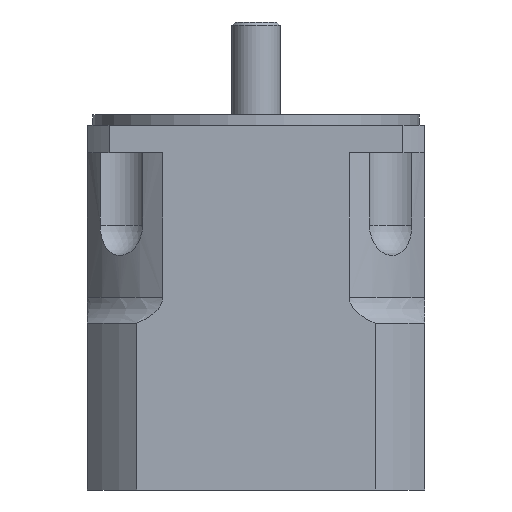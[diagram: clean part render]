
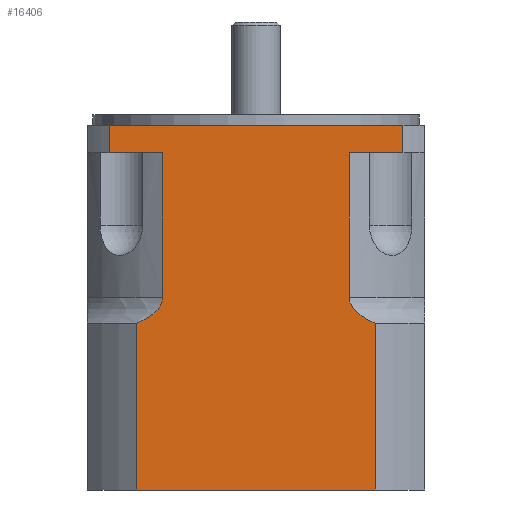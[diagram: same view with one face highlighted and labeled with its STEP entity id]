
A CAD part, front view. The second image highlights one B-rep face of the part: STEP entity #16406.
In plain terms, the highlighted planar face has unit normal (0, -1, 0).
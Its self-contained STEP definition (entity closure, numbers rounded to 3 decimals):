
#454=B_SPLINE_CURVE_WITH_KNOTS('',3,(#24687,#24688,#24689,#24690,#24691,
#24692,#24693,#24694,#24695,#24696,#24697,#24698,#24699,#24700),
 .UNSPECIFIED.,.F.,.F.,(4,2,2,2,2,2,4),(3.462,3.588,
3.731,3.935,4.138,4.416,4.515),
 .UNSPECIFIED.);
#457=B_SPLINE_CURVE_WITH_KNOTS('',3,(#24751,#24752,#24753,#24754,#24755,
#24756,#24757,#24758,#24759,#24760,#24761,#24762,#24763,#24764),
 .UNSPECIFIED.,.F.,.F.,(4,2,2,2,2,2,4),(2.409,2.508,
2.786,2.99,3.193,3.337,3.462),
 .UNSPECIFIED.);
#803=LINE('',#24382,#1627);
#806=LINE('',#24395,#1630);
#818=LINE('',#24467,#1642);
#834=LINE('',#24529,#1658);
#850=LINE('',#24567,#1674);
#860=LINE('',#24743,#1684);
#862=LINE('',#24767,#1686);
#863=LINE('',#24770,#1687);
#866=LINE('',#24783,#1690);
#867=LINE('',#24785,#1691);
#1627=VECTOR('',#19496,8.);
#1630=VECTOR('',#19507,8.);
#1642=VECTOR('',#19547,15.597);
#1658=VECTOR('',#19567,15.597);
#1674=VECTOR('',#19599,85.417);
#1684=VECTOR('',#19653,42.);
#1686=VECTOR('',#19667,42.);
#1687=VECTOR('',#19670,48.517);
#1690=VECTOR('',#19687,48.517);
#1691=VECTOR('',#19690,69.253);
#3103=FACE_OUTER_BOUND('',#4132,.T.);
#4132=EDGE_LOOP('',(#10554,#10555,#10556,#10557,#10558,#10559,#10560,#10561,
#10562,#10563,#10564,#10565));
#6389=VERTEX_POINT('',#24380);
#6390=VERTEX_POINT('',#24381);
#6395=VERTEX_POINT('',#24392);
#6396=VERTEX_POINT('',#24394);
#6414=VERTEX_POINT('',#24465);
#6430=VERTEX_POINT('',#24528);
#6453=VERTEX_POINT('',#24685);
#6454=VERTEX_POINT('',#24686);
#6459=VERTEX_POINT('',#24748);
#6460=VERTEX_POINT('',#24750);
#6461=VERTEX_POINT('',#24769);
#6464=VERTEX_POINT('',#24781);
#7964=EDGE_CURVE('',#6389,#6390,#803,.T.);
#7970=EDGE_CURVE('',#6396,#6395,#806,.T.);
#7994=EDGE_CURVE('',#6414,#6390,#818,.T.);
#8012=EDGE_CURVE('',#6396,#6430,#834,.T.);
#8031=EDGE_CURVE('',#6395,#6389,#850,.T.);
#8048=EDGE_CURVE('',#6453,#6454,#454,.T.);
#8058=EDGE_CURVE('',#6414,#6453,#860,.T.);
#8061=EDGE_CURVE('',#6460,#6459,#457,.T.);
#8063=EDGE_CURVE('',#6459,#6430,#862,.T.);
#8064=EDGE_CURVE('',#6460,#6461,#863,.T.);
#8071=EDGE_CURVE('',#6464,#6454,#866,.T.);
#8072=EDGE_CURVE('',#6461,#6464,#867,.T.);
#10554=ORIENTED_EDGE('',*,*,#7964,.T.);
#10555=ORIENTED_EDGE('',*,*,#7994,.F.);
#10556=ORIENTED_EDGE('',*,*,#8058,.T.);
#10557=ORIENTED_EDGE('',*,*,#8048,.T.);
#10558=ORIENTED_EDGE('',*,*,#8071,.F.);
#10559=ORIENTED_EDGE('',*,*,#8072,.F.);
#10560=ORIENTED_EDGE('',*,*,#8064,.F.);
#10561=ORIENTED_EDGE('',*,*,#8061,.T.);
#10562=ORIENTED_EDGE('',*,*,#8063,.T.);
#10563=ORIENTED_EDGE('',*,*,#8012,.F.);
#10564=ORIENTED_EDGE('',*,*,#7970,.T.);
#10565=ORIENTED_EDGE('',*,*,#8031,.T.);
#15127=PLANE('',#17469);
#16406=ADVANCED_FACE('',(#3103),#15127,.T.);
#17469=AXIS2_PLACEMENT_3D('',#24784,#19688,#19689);
#19496=DIRECTION('',(0.,0.,-1.));
#19507=DIRECTION('',(0.,0.,1.));
#19547=DIRECTION('',(-1.,0.,0.));
#19567=DIRECTION('',(-1.,0.,0.));
#19599=DIRECTION('',(-1.,0.,0.));
#19653=DIRECTION('',(0.,0.,-1.));
#19667=DIRECTION('',(0.,0.,1.));
#19670=DIRECTION('',(0.,0.,-1.));
#19687=DIRECTION('',(0.,0.,1.));
#19688=DIRECTION('center_axis',(0.,-1.,0.));
#19689=DIRECTION('ref_axis',(0.,0.,-1.));
#19690=DIRECTION('',(-1.,0.,0.));
#24380=CARTESIAN_POINT('',(-42.708,-49.,106.));
#24381=CARTESIAN_POINT('',(-42.708,-49.,98.));
#24382=CARTESIAN_POINT('',(-42.708,-49.,106.));
#24392=CARTESIAN_POINT('',(42.708,-49.,106.));
#24394=CARTESIAN_POINT('',(42.708,-49.,98.));
#24395=CARTESIAN_POINT('',(42.708,-49.,106.));
#24465=CARTESIAN_POINT('',(-27.111,-49.,98.));
#24467=CARTESIAN_POINT('',(49.,-49.,98.));
#24528=CARTESIAN_POINT('',(27.111,-49.,98.));
#24529=CARTESIAN_POINT('',(49.,-49.,98.));
#24567=CARTESIAN_POINT('',(49.,-49.,106.));
#24685=CARTESIAN_POINT('',(-27.111,-49.,56.));
#24686=CARTESIAN_POINT('',(-34.627,-49.,48.517));
#24687=CARTESIAN_POINT('Ctrl Pts',(-27.111,-49.,56.));
#24688=CARTESIAN_POINT('Ctrl Pts',(-27.111,-49.,55.582));
#24689=CARTESIAN_POINT('Ctrl Pts',(-27.188,-49.,55.086));
#24690=CARTESIAN_POINT('Ctrl Pts',(-27.449,-49.,54.228));
#24691=CARTESIAN_POINT('Ctrl Pts',(-27.698,-49.,53.71));
#24692=CARTESIAN_POINT('Ctrl Pts',(-28.316,-49.,52.733));
#24693=CARTESIAN_POINT('Ctrl Pts',(-28.799,-49.,52.172));
#24694=CARTESIAN_POINT('Ctrl Pts',(-29.876,-49.,51.164));
#24695=CARTESIAN_POINT('Ctrl Pts',(-30.471,-49.,50.715));
#24696=CARTESIAN_POINT('Ctrl Pts',(-31.809,-49.,49.829));
#24697=CARTESIAN_POINT('Ctrl Pts',(-32.702,-49.,49.344));
#24698=CARTESIAN_POINT('Ctrl Pts',(-33.958,-49.,48.784));
#24699=CARTESIAN_POINT('Ctrl Pts',(-34.293,-49.,48.645));
#24700=CARTESIAN_POINT('Ctrl Pts',(-34.627,-49.,48.517));
#24743=CARTESIAN_POINT('',(-27.111,-49.,77.));
#24748=CARTESIAN_POINT('',(27.111,-49.,56.));
#24750=CARTESIAN_POINT('',(34.627,-49.,48.517));
#24751=CARTESIAN_POINT('Ctrl Pts',(34.627,-49.,48.517));
#24752=CARTESIAN_POINT('Ctrl Pts',(34.293,-49.,48.645));
#24753=CARTESIAN_POINT('Ctrl Pts',(33.958,-49.,48.784));
#24754=CARTESIAN_POINT('Ctrl Pts',(32.702,-49.,49.344));
#24755=CARTESIAN_POINT('Ctrl Pts',(31.809,-49.,49.829));
#24756=CARTESIAN_POINT('Ctrl Pts',(30.471,-49.,50.715));
#24757=CARTESIAN_POINT('Ctrl Pts',(29.876,-49.,51.164));
#24758=CARTESIAN_POINT('Ctrl Pts',(28.799,-49.,52.172));
#24759=CARTESIAN_POINT('Ctrl Pts',(28.316,-49.,52.733));
#24760=CARTESIAN_POINT('Ctrl Pts',(27.698,-49.,53.71));
#24761=CARTESIAN_POINT('Ctrl Pts',(27.449,-49.,54.228));
#24762=CARTESIAN_POINT('Ctrl Pts',(27.188,-49.,55.086));
#24763=CARTESIAN_POINT('Ctrl Pts',(27.111,-49.,55.582));
#24764=CARTESIAN_POINT('Ctrl Pts',(27.111,-49.,56.));
#24767=CARTESIAN_POINT('',(27.111,-49.,77.));
#24769=CARTESIAN_POINT('',(34.627,-49.,0.));
#24770=CARTESIAN_POINT('',(34.627,-49.,0.));
#24781=CARTESIAN_POINT('',(-34.627,-49.,0.));
#24783=CARTESIAN_POINT('',(-34.627,-49.,0.));
#24784=CARTESIAN_POINT('Origin',(-49.,-49.,98.));
#24785=CARTESIAN_POINT('',(-24.5,-49.,0.));
